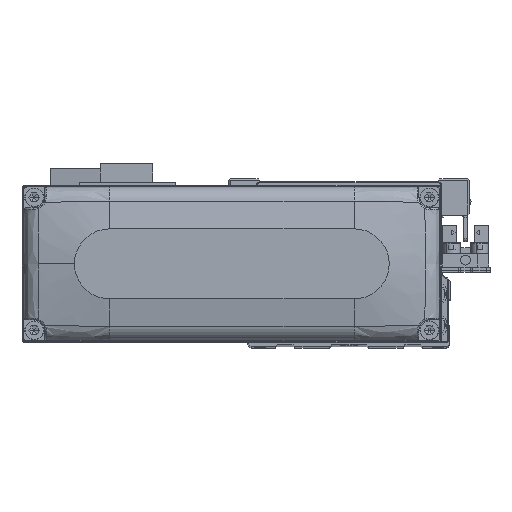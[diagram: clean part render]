
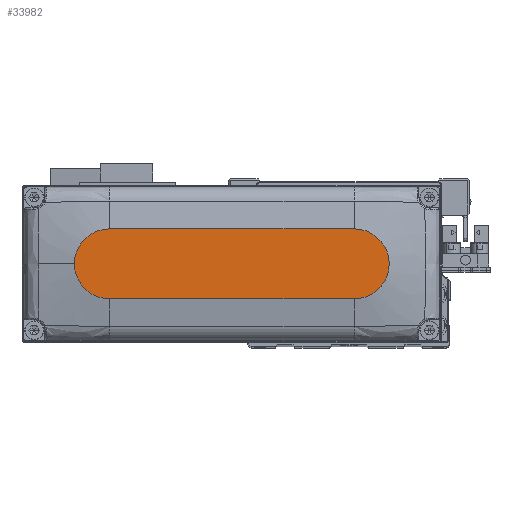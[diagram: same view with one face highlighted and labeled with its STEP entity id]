
A CAD part, top view. The second image highlights one B-rep face of the part: STEP entity #33982.
In plain terms, the highlighted planar face has unit normal (0, 0, 1).
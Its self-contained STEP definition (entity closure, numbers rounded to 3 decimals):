
#41 = CARTESIAN_POINT ( 'NONE',  ( -35., 10., 28. ) ) ;
#186 = CIRCLE ( 'NONE', #21124, 10. ) ;
#289 = DIRECTION ( 'NONE',  ( 1., 0., 0. ) ) ;
#571 = VECTOR ( 'NONE', #36590, 1000. ) ;
#1160 = EDGE_LOOP ( 'NONE', ( #34168, #36876, #13986, #12715, #16248 ) ) ;
#1374 = CARTESIAN_POINT ( 'NONE',  ( 35., 0., 28. ) ) ;
#1472 = EDGE_CURVE ( 'NONE', #7646, #16282, #26726, .T. ) ;
#3325 = CARTESIAN_POINT ( 'NONE',  ( 35., 10., 28. ) ) ;
#4654 = CARTESIAN_POINT ( 'NONE',  ( -35., -10., 28. ) ) ;
#4892 = EDGE_CURVE ( 'NONE', #25580, #7646, #186, .T. ) ;
#5865 = DIRECTION ( 'NONE',  ( -1., 0., 0. ) ) ;
#7039 = EDGE_CURVE ( 'NONE', #16282, #31473, #20093, .T. ) ;
#7646 = VERTEX_POINT ( 'NONE', #18676 ) ;
#8354 = DIRECTION ( 'NONE',  ( 0., 0., 1. ) ) ;
#8694 = CARTESIAN_POINT ( 'NONE',  ( -35., 0., 28. ) ) ;
#10564 = AXIS2_PLACEMENT_3D ( 'NONE', #14537, #25972, #289 ) ;
#11144 = FACE_OUTER_BOUND ( 'NONE', #1160, .T. ) ;
#11182 = AXIS2_PLACEMENT_3D ( 'NONE', #34007, #8354, #19779 ) ;
#12715 = ORIENTED_EDGE ( 'NONE', *, *, #4892, .T. ) ;
#12805 = DIRECTION ( 'NONE',  ( 0., 0., 1. ) ) ;
#13741 = LINE ( 'NONE', #25174, #571 ) ;
#13986 = ORIENTED_EDGE ( 'NONE', *, *, #24723, .T. ) ;
#14537 = CARTESIAN_POINT ( 'NONE',  ( 35., 0., 28. ) ) ;
#16248 = ORIENTED_EDGE ( 'NONE', *, *, #1472, .T. ) ;
#16282 = VERTEX_POINT ( 'NONE', #3325 ) ;
#18676 = CARTESIAN_POINT ( 'NONE',  ( 45., 0., 28. ) ) ;
#19779 = DIRECTION ( 'NONE',  ( 1., 0., 0. ) ) ;
#20093 = LINE ( 'NONE', #31519, #21245 ) ;
#20113 = DIRECTION ( 'NONE',  ( 0., 0., 1. ) ) ;
#20510 = AXIS2_PLACEMENT_3D ( 'NONE', #8694, #20113, #31543 ) ;
#21034 = EDGE_CURVE ( 'NONE', #31473, #33386, #36657, .T. ) ;
#21124 = AXIS2_PLACEMENT_3D ( 'NONE', #1374, #12805, #24234 ) ;
#21245 = VECTOR ( 'NONE', #5865, 1000. ) ;
#22579 = PLANE ( 'NONE',  #11182 ) ;
#24234 = DIRECTION ( 'NONE',  ( 1., 0., 0. ) ) ;
#24723 = EDGE_CURVE ( 'NONE', #33386, #25580, #13741, .T. ) ;
#25174 = CARTESIAN_POINT ( 'NONE',  ( -35., -10., 28. ) ) ;
#25580 = VERTEX_POINT ( 'NONE', #34376 ) ;
#25972 = DIRECTION ( 'NONE',  ( 0., 0., 1. ) ) ;
#26726 = CIRCLE ( 'NONE', #10564, 10. ) ;
#31473 = VERTEX_POINT ( 'NONE', #41 ) ;
#31519 = CARTESIAN_POINT ( 'NONE',  ( -35., 10., 28. ) ) ;
#31543 = DIRECTION ( 'NONE',  ( 1., 0., 0. ) ) ;
#33386 = VERTEX_POINT ( 'NONE', #4654 ) ;
#33982 = ADVANCED_FACE ( 'NONE', ( #11144 ), #22579, .T. ) ;
#34007 = CARTESIAN_POINT ( 'NONE',  ( 0., 0., 28. ) ) ;
#34168 = ORIENTED_EDGE ( 'NONE', *, *, #7039, .T. ) ;
#34376 = CARTESIAN_POINT ( 'NONE',  ( 35., -10., 28. ) ) ;
#36590 = DIRECTION ( 'NONE',  ( 1., 0., 0. ) ) ;
#36657 = CIRCLE ( 'NONE', #20510, 10. ) ;
#36876 = ORIENTED_EDGE ( 'NONE', *, *, #21034, .T. ) ;
